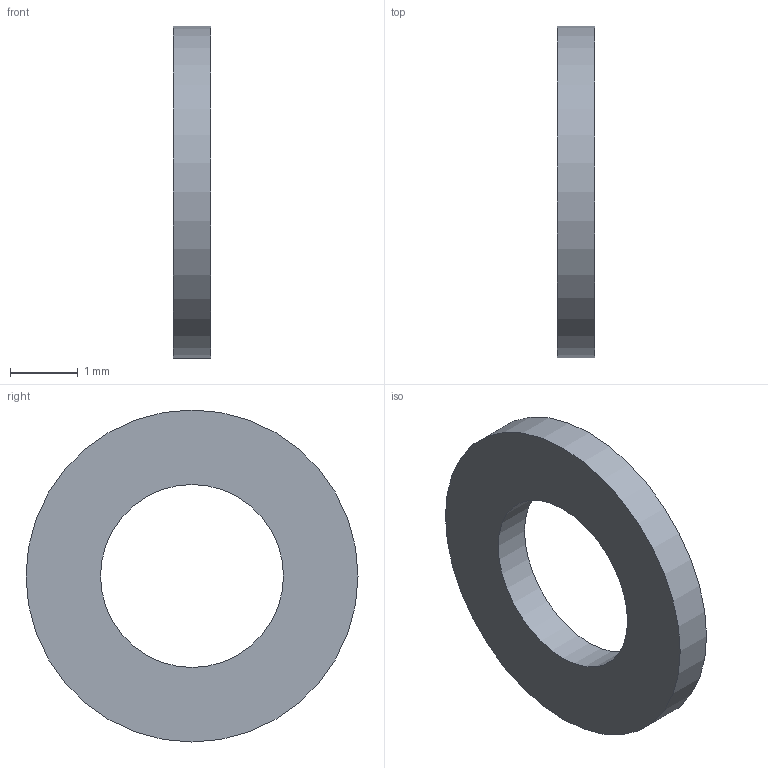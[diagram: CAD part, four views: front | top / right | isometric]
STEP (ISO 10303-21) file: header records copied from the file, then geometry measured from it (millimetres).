
FILE_DESCRIPTION(('Open CASCADE Model'),'2;1');
FILE_NAME('opposite-fsr-pcb-retaining-washer.step','2026-11-14T16:52:09' ,('Author'),('Open CASCADE'),'Open CASCADE STEP processor 8.0', 'Open CASCADE 8.0','Unknown');
FILE_SCHEMA(('AP242_MANAGED_MODEL_BASED_3D_ENGINEERING_MIM_LF {1 0 10303 442 1 1 4 }' ));
Length unit declared in the file: millimetre
Products named in the file (1): Opposite FSR PCB Retaining Washer
Bounding box: 0.55 x 4.9 x 4.9 mm (x, y, z)
Volume: 7.2 mm3; surface area: 39.4 mm2
Topology: 1 solids, 1 shells, 4 faces, 6 edges, 4 vertices
Faces by surface type: cylinder 2, plane 2
Full cylindrical faces by diameter (mm): 2.7 x1, 4.9 x1
Entity records: 195 total; most frequent: DIRECTION 32, CARTESIAN_POINT 27, ORIENTED_EDGE 12, PCURVE 12, DEFINITIONAL_REPRESENTATION 12, LINE 10, VECTOR 10, AXIS2_PLACEMENT_3D 9
